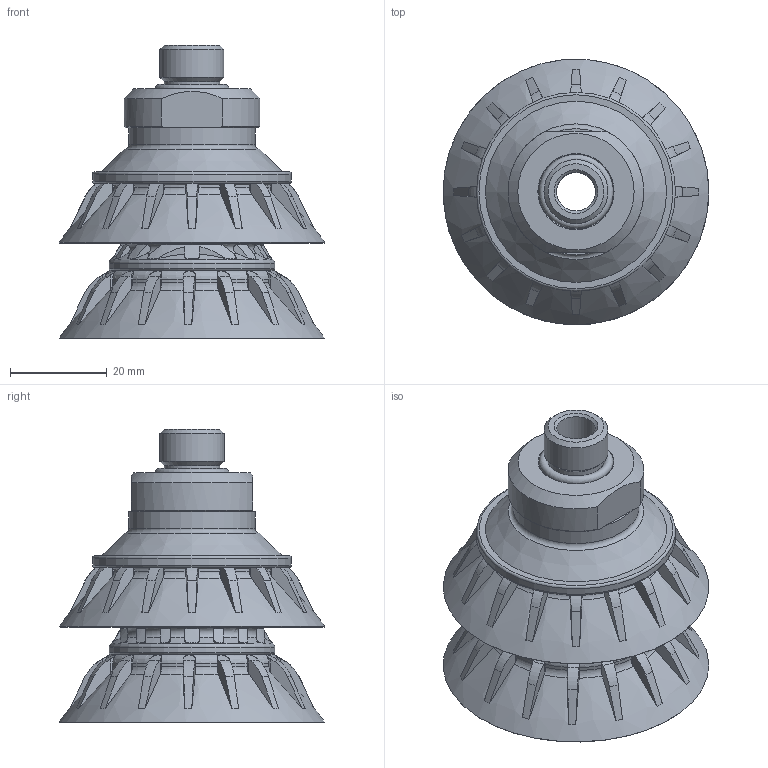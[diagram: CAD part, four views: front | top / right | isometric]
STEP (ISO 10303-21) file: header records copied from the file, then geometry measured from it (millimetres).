
FILE_DESCRIPTION( ( 'Unknown' ), '1' );
FILE_NAME( 'C:/Documents and Settings/owner/官帕 拳搁/荤夯 - B1.5/B2.5-40-X55-S-A-14M.stp', 'Unknown', ( 'Unknown' ), ( 'Unknown' ), 'XStep 1.0', 'Unknown', ' ' );
FILE_SCHEMA( ( 'automotive_design' ) );
Length unit declared in the file: millimetre
Products named in the file (6): Assem1; 14M-Oring; B1.5-40-14M; B2.5-40; B2.5-40-stopperA_20131004; B2.5-40-X55
Bounding box: 54.79 x 54.8 x 60.54 mm (x, y, z)
Volume: 39148.4 mm3; surface area: 46067.4 mm2
Topology: 10 solids, 10 shells, 1306 faces, 3548 edges, 2246 vertices
Faces by surface type: cylinder 364, plane 344, torus 304, cone 162, bspline 132
Full cylindrical faces by diameter (mm): 8 x2, 9.5 x2, 11.5 x2, 13.2 x2, 15.3 x2, 18 x4, 21 x4, 21.5 x4, 22 x2, 24 x2, 24.831 x2, 26 x2, 27.821 x2, 32 x2, 34.2 x2, 41 x4
Entity records: 29120 total; most frequent: CARTESIAN_POINT 13835, ORIENTED_EDGE 3340, DIRECTION 2380, EDGE_CURVE 1670, VERTEX_POINT 1113, AXIS2_PLACEMENT_3D 1049, B_SPLINE_CURVE_WITH_KNOTS 932, EDGE_LOOP 747
